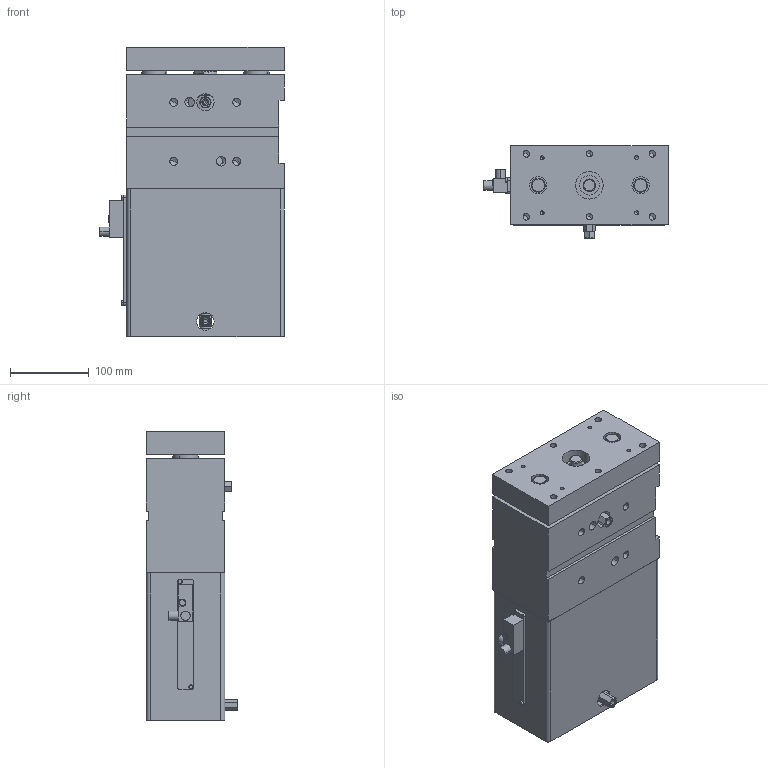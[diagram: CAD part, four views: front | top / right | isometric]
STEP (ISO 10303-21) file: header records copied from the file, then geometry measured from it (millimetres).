
FILE_DESCRIPTION(('CATIA V5 STEP Exchange'),'2;1');
FILE_NAME('C:\Users\huberm\Desktop\MZVD\MZVD_50_120_PR_T12_TUENKERS.stp','2016-10-28T11:16:46+00:00',('none'),('none'),'CATIA Version 5 Release 19 SP 9 (IN-10)','CATIA V5 STEP AP214','none');
FILE_SCHEMA(('AUTOMOTIVE_DESIGN { 1 0 10303 214 1 1 1 1 }'));
Length unit declared in the file: millimetre
Products named in the file (1): MZVD_50_120_PR_T12_TUENKERS
Bounding box: 234 x 116.5 x 368 mm (x, y, z)
Volume: 4335630.8 mm3; surface area: 593278.1 mm2
Topology: 1 solids, 15 shells, 531 faces, 1266 edges, 756 vertices
Faces by surface type: cylinder 195, plane 154, cone 154, torus 24, sphere 4
Entity records: 18352 total; most frequent: CARTESIAN_POINT 3677, ORIENTED_EDGE 2396, DIRECTION 1791, EDGE_CURVE 1198, AXIS2_PLACEMENT_3D 899, VERTEX_POINT 756, EDGE_LOOP 618, PRESENTATION_STYLE_ASSIGNMENT 532
